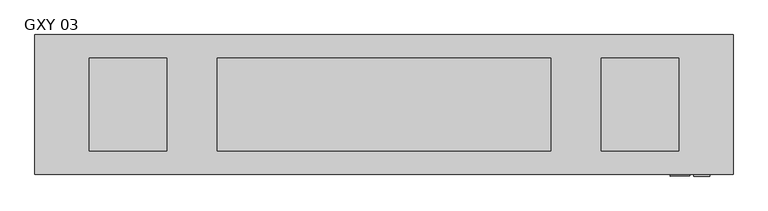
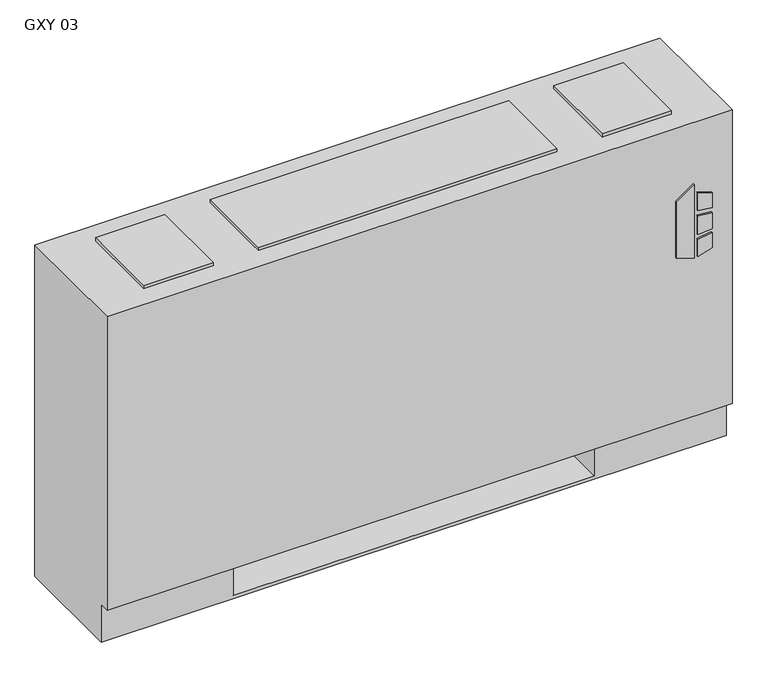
"""IFC4 building model written with IfcOpenShell, lengths in millimetres: proxy geometry, Vertical_Fan_Coil_Unit_-_GXY_-_IEC_-_2-Pipe_TS-FR_RH_2022 : GXY 03."""

import ifcopenshell
import ifcopenshell.guid

model = None  # the IFC model being written
_history = None  # IfcOwnerHistory: only IFC2X3 demands one
_inside = {}  # id of a spatial element -> (the spatial element, [elements in it])
_under = {}  # id of a project, library or spatial element -> (it, [spatial elements below it])
_declared = {}  # id of a project -> (the project, [libraries it declares])
_typed = {}  # id of a type object -> (the type object, [elements of that type])
_made_of = {}  # id of a material, layer set ... -> (it, [elements and type objects made of it])


def new_model(schema):
    """Start an empty IFC model of exactly this schema.

    Asked for "IFC4X3", IfcOpenShell would pick the latest addendum, in which some entities
    have other attributes; the version numbers below select the first issue.
    IFC2X3 requires an IfcOwnerHistory on every rooted entity: one is made here for all.
    """
    global model, _history
    if schema == "IFC4X3":
        model = ifcopenshell.file(schema_version=(4, 3, 0, 0))
    else:
        model = ifcopenshell.file(schema=schema)
    _inside.clear()
    _under.clear()
    _declared.clear()
    _typed.clear()
    _made_of.clear()
    _history = None
    if model.schema == "IFC2X3":
        org = make("IfcOrganization", Name="unknown")
        user = make(
            "IfcPersonAndOrganization",
            ThePerson=make("IfcPerson", FamilyName="unknown"),
            TheOrganization=org,
        )
        app = make(
            "IfcApplication",
            ApplicationDeveloper=org,
            Version="unknown",
            ApplicationFullName="unknown",
            ApplicationIdentifier="unknown",
        )
        _history = make(
            "IfcOwnerHistory",
            OwningUser=user,
            OwningApplication=app,
            ChangeAction="ADDED",
            CreationDate=0,
        )
    return model


def make(cls, **values):
    """One entity of the class cls with the attributes given. An attribute that is None is left unset."""
    return model.create_entity(
        cls, **{name: value for name, value in values.items() if value is not None}
    )


def rooted(cls, **values):
    """An entity with a GlobalId (a new one), such as an element, a storey or a relation."""
    return make(cls, GlobalId=ifcopenshell.guid.new(), OwnerHistory=_history, **values)


def si_unit(unit_type, name, prefix=None):
    """IfcSIUnit, for example si_unit("LENGTHUNIT", "METRE", prefix="MILLI")."""
    return make("IfcSIUnit", UnitType=unit_type, Prefix=prefix, Name=name)


def assignment(units):
    """IfcUnitAssignment: the units of a project."""
    return None if units is None else make("IfcUnitAssignment", Units=units)


def point(xyz):
    """IfcCartesianPoint."""
    return None if xyz is None else make("IfcCartesianPoint", Coordinates=xyz)


def direction(xyz):
    """IfcDirection."""
    return None if xyz is None else make("IfcDirection", DirectionRatios=xyz)


def frame(location, z_axis=None, x_axis=None):
    """IfcAxis2Placement3D, a coordinate frame: its origin and axes. An axis left out is left unset."""
    return make(
        "IfcAxis2Placement3D",
        Location=point(location),
        Axis=direction(z_axis),
        RefDirection=direction(x_axis),
    )


def frame_2d(location, x_axis=None):
    """IfcAxis2Placement2D, a coordinate frame in the plane: its origin and x axis."""
    return make(
        "IfcAxis2Placement2D", Location=point(location), RefDirection=direction(x_axis)
    )


def origin():
    """The frame at (0, 0, 0) with its axes left unset."""
    return frame((0.0, 0.0, 0.0))


def place(relative_to, where):
    """IfcLocalPlacement: puts the frame where relative to a parent placement (None: the world)."""
    return make(
        "IfcLocalPlacement", PlacementRelTo=relative_to, RelativePlacement=where
    )


def context(
    kind, dimensions, precision=None, world=None, true_north=None, identifier=None
):
    """IfcGeometricRepresentationContext, for example the 3D "Model" context."""
    return make(
        "IfcGeometricRepresentationContext",
        ContextIdentifier=identifier,
        ContextType=kind,
        CoordinateSpaceDimension=dimensions,
        Precision=precision,
        WorldCoordinateSystem=world,
        TrueNorth=true_north,
    )


def project(units=None, contexts=None):
    """IfcProject with its units and contexts."""
    return rooted(
        "IfcProject",
        Name="project",
        RepresentationContexts=contexts,
        UnitsInContext=assignment(units),
    )


def spatial(cls, under=None, at=None, **own):
    """A site, building, storey or space (cls), placed at a placement, below another one or the project."""
    s = rooted(cls, ObjectPlacement=at, **own)
    if under is not None:
        _under.setdefault(under.id(), (under, []))[1].append(s)
    return s


def polyline(points):
    """IfcPolyline through the points."""
    return make("IfcPolyline", Points=[point(p) for p in points])


def circle_curve(where, radius):
    """IfcCircle in the frame where."""
    return make("IfcCircle", Position=where, Radius=radius)


def trimmed(basis, trim1, trim2, sense, master):
    """IfcTrimmedCurve: the piece of a basis curve between two trims."""
    return make(
        "IfcTrimmedCurve",
        BasisCurve=basis,
        Trim1=trim1,
        Trim2=trim2,
        SenseAgreement=sense,
        MasterRepresentation=master,
    )


def segment(curve, same_sense, transition):
    """IfcCompositeCurveSegment."""
    return make(
        "IfcCompositeCurveSegment",
        Transition=transition,
        SameSense=same_sense,
        ParentCurve=curve,
    )


def composite_curve(segments, self_intersect=None):
    """IfcCompositeCurve: segments joined end to end."""
    return make("IfcCompositeCurve", Segments=segments, SelfIntersect=self_intersect)


def outline(outer, holes=None, kind="AREA"):
    """IfcArbitraryClosedProfileDef: a profile drawn as a closed curve; with holes, ...WithVoids."""
    if holes is None:
        return make("IfcArbitraryClosedProfileDef", ProfileType=kind, OuterCurve=outer)
    return make(
        "IfcArbitraryProfileDefWithVoids",
        ProfileType=kind,
        OuterCurve=outer,
        InnerCurves=holes,
    )


def extrude(swept, where, along, depth):
    """IfcExtrudedAreaSolid: the profile swept, set in the frame where, extruded along a direction by depth."""
    return make(
        "IfcExtrudedAreaSolid",
        SweptArea=swept,
        Position=where,
        ExtrudedDirection=direction(along),
        Depth=depth,
    )


def shape(context_of_items, identifier, shape_type, items):
    """IfcShapeRepresentation: the items that make up one representation, for example the "Body"."""
    return make(
        "IfcShapeRepresentation",
        ContextOfItems=context_of_items,
        RepresentationIdentifier=identifier,
        RepresentationType=shape_type,
        Items=items,
    )


def source(mapping_origin, context_of_items, identifier, shape_type, items):
    """IfcRepresentationMap: a shape defined once, which mapped items show again and again."""
    return make(
        "IfcRepresentationMap",
        MappingOrigin=mapping_origin,
        MappedRepresentation=shape(context_of_items, identifier, shape_type, items),
    )


def transform(
    local_origin,
    x_axis=None,
    y_axis=None,
    z_axis=None,
    scale=None,
    scale2=None,
    scale3=None,
    uniform=True,
):
    """IfcCartesianTransformationOperator3D, or its non-uniform kind. x_axis, y_axis, z_axis: its Axis1, 2, 3."""
    if uniform:
        return make(
            "IfcCartesianTransformationOperator3D",
            Axis1=direction(x_axis),
            Axis2=direction(y_axis),
            LocalOrigin=point(local_origin),
            Scale=scale,
            Axis3=direction(z_axis),
        )
    return make(
        "IfcCartesianTransformationOperator3DnonUniform",
        Axis1=direction(x_axis),
        Axis2=direction(y_axis),
        LocalOrigin=point(local_origin),
        Scale=scale,
        Axis3=direction(z_axis),
        Scale2=scale2,
        Scale3=scale3,
    )


def mapped(mapping_source, mapping_target):
    """IfcMappedItem: shows the shape of a source again, moved by a transform."""
    return make(
        "IfcMappedItem", MappingSource=mapping_source, MappingTarget=mapping_target
    )


def made_of(thing, what):
    """Note that an element or type object is made of a material, layer set ...; save() writes the relation."""
    if what is not None:
        _made_of.setdefault(what.id(), (what, []))[1].append(thing)
    return thing


def element(
    cls,
    number,
    at=None,
    inside=None,
    cuts=None,
    type_object=None,
    material=None,
    context=None,
    identifier="Body",
    shape_type=None,
    held_by="IfcProductDefinitionShape",
    body=None,
    shapes=None,
    **own,
):
    """One element of the class cls, such as IfcWall. Its Tag is "e" and its number.

    at: its placement. inside: the storey or other place that contains it. cuts: it is an
    opening in that element (IfcRelVoidsElement). A single representation is given by context,
    identifier, shape_type and body (its items); several are given by shapes. held_by: the class
    of the entity that holds the representations. save() writes the other relations.
    """
    e = rooted(cls, Tag="e%d" % number, ObjectPlacement=at, **own)
    if body is not None:
        shapes = [shape(context, identifier, shape_type, body)]
    if shapes is not None:
        e.Representation = make(held_by, Representations=shapes)
    if inside is not None:
        _inside.setdefault(inside.id(), (inside, []))[1].append(e)
    if cuts is not None:
        rooted(
            "IfcRelVoidsElement", RelatingBuildingElement=cuts, RelatedOpeningElement=e
        )
    if type_object is not None:
        _typed.setdefault(type_object.id(), (type_object, []))[1].append(e)
    return made_of(e, material)


def aggregate(whole, parts):
    """IfcRelAggregates: a whole, such as a stair, and the parts it consists of."""
    return rooted("IfcRelAggregates", RelatingObject=whole, RelatedObjects=parts)


def save(model, path):
    """Write the relations noted so far, then the file.

    IfcRelAggregates (storeys below a building ...), IfcRelContainedInSpatialStructure (elements
    in a storey), IfcRelDefinesByType, IfcRelAssociatesMaterial and IfcRelDeclares: one each for
    every whole, place, type object, material and project.
    """
    for whole, parts in _under.values():
        aggregate(whole, parts)
    for where, things in _inside.values():
        rooted(
            "IfcRelContainedInSpatialStructure",
            RelatedElements=things,
            RelatingStructure=where,
        )
    for kind, things in _typed.values():
        rooted("IfcRelDefinesByType", RelatedObjects=things, RelatingType=kind)
    for what, things in _made_of.values():
        rooted("IfcRelAssociatesMaterial", RelatedObjects=things, RelatingMaterial=what)
    for by, libraries in _declared.values():
        rooted("IfcRelDeclares", RelatingContext=by, RelatedDefinitions=libraries)
    model.write(path)


def plane_surface(at):
    """IfcPlane: the flat surface through the origin of the frame at, square to its z axis."""
    return make("IfcPlane", Position=at)


def revolved_surface(curve, axis_point, axis_direction):
    """IfcSurfaceOfRevolution: the curve turned about the line through axis_point along axis_direction."""
    return make(
        "IfcSurfaceOfRevolution",
        SweptCurve=make("IfcArbitraryOpenProfileDef", ProfileType="CURVE", Curve=curve),
        AxisPosition=make("IfcAxis1Placement", Location=point(axis_point), Axis=direction(axis_direction)),
    )


def advanced_brep(points, edges, surfaces, faces):
    """IfcAdvancedBrep: a solid bounded by faces that lie on surfaces and meet in shared edges.

    An edge is (start, end): straight between two places in points (the first is 0);
    or (start, end, curve); or (start, end, curve, False) where it runs against its curve.
    A face is (place in surfaces, loops), or (place, loops, False) where it looks against
    its surface's normal. A loop lists edges by number (the first is 1), with a minus sign
    where the edge is run from its end to its start. The first loop is the outer one.
    """
    corners = [point(p) for p in points]
    vertices = [make("IfcVertexPoint", VertexGeometry=c) for c in corners]
    made = []
    for start, end, *more in edges:
        made.append(
            make(
                "IfcEdgeCurve",
                EdgeStart=vertices[start],
                EdgeEnd=vertices[end],
                EdgeGeometry=more[0] if more else make("IfcPolyline", Points=[corners[start], corners[end]]),
                SameSense=more[1] if len(more) > 1 else True,
            )
        )
    hull = []
    for where, loops, *sense in faces:
        bounds = []
        for j, loop in enumerate(loops):
            ring = [make("IfcOrientedEdge", EdgeElement=made[abs(k) - 1], Orientation=k > 0) for k in loop]
            bounds.append(
                make(
                    "IfcFaceOuterBound" if j == 0 else "IfcFaceBound",
                    Bound=make("IfcEdgeLoop", EdgeList=ring),
                    Orientation=True,
                )
            )
        hull.append(make("IfcAdvancedFace", Bounds=bounds, FaceSurface=surfaces[where], SameSense=sense[0] if sense else True))
    return make("IfcAdvancedBrep", Outer=make("IfcClosedShell", CfsFaces=hull))


def gxy_03_0d3e7284(model_context):
    return source(origin(), model_context, "Body", "SolidModel", [
        extrude(outline(polyline([(391.6086829, 620.7868862), (381.6606126, 652.9602728), (523.831537, 652.9602728), (500.8095309, 620.7868862), (391.6086829, 620.7868862)])), frame((0.0, 12.7, 0.0), z_axis=(0.0, 1.0, 0.0), x_axis=(0.0, 0.0, 1.0)), (0.0, 0.0, 1.0), 3.175),
        extrude(outline(polyline([(470.6079683, 659.7186058), (467.4055757, 685.8), (496.6344168, 685.8), (504.6988318, 659.7186058), (470.6079683, 659.7186058)])), frame((0.0, 12.7, 0.0), z_axis=(0.0, 1.0, 0.0), x_axis=(0.0, 0.0, 1.0)), (0.0, 0.0, 1.0), 3.175),
        extrude(outline(polyline([(418.7444414, 685.8), (415.0789404, 659.7186058), (381.6606126, 659.7186058), (390.2948498, 685.8), (418.7444414, 685.8)])), frame((0.0, 12.7, 0.0), z_axis=(0.0, 1.0, 0.0), x_axis=(0.0, 0.0, 1.0)), (0.0, 0.0, 1.0), 3.175),
        extrude(outline(polyline([(458.0596028, 685.8), (460.3414292, 659.7186058), (424.4038806, 659.7186058), (427.1451456, 685.8), (458.0596028, 685.8)])), frame((0.0, 12.7, 0.0), z_axis=(0.0, 1.0, 0.0), x_axis=(0.0, 0.0, 1.0)), (0.0, 0.0, 1.0), 3.175),
        extrude(outline(polyline([(-298.45, 81.534), (-298.45, 223.266), (-127.0, 223.266), (-127.0, 81.534), (-298.45, 81.534)])), frame((0.0, 0.0, 327.025), z_axis=(0.0, 0.0, 1.0), x_axis=(1.0, 0.0, 0.0)), (0.0, 0.0, 1.0), 260.35),
        extrude(outline(polyline([(-203.2, 206.375), (-203.2, 53.975), (-330.2, 53.975), (-330.2, 206.375), (-203.2, 206.375)])), frame((0.0, 0.0, 641.35), z_axis=(0.0, 0.0, 1.0), x_axis=(1.0, 0.0, 0.0)), (0.0, 0.0, 1.0), 6.35),
        extrude(outline(polyline([(635.0, 206.375), (635.0, 53.975), (508.0, 53.975), (508.0, 206.375), (635.0, 206.375)])), frame((0.0, 0.0, 641.35), z_axis=(0.0, 0.0, 1.0), x_axis=(1.0, 0.0, 0.0)), (0.0, 0.0, 1.0), 6.35),
        extrude(outline(composite_curve([segment(trimmed(circle_curve(frame_2d((78.9432, 398.5514)), 7.9375), [point((78.9432, 406.4889))], [point((78.9432, 390.6139))], False, "CARTESIAN"), True, "CONTINUOUS"), segment(trimmed(circle_curve(frame_2d((78.9432, 398.5514)), 7.9375), [point((78.9432, 390.6139))], [point((78.9432, 406.4889))], False, "CARTESIAN"), True, "CONTINUOUS")], self_intersect=False)), frame((482.6, 0.0, 0.0), z_axis=(1.0, 0.0, 0.0), x_axis=(0.0, 1.0, 0.0)), (0.0, 0.0, 1.0), 50.8),
        extrude(outline(composite_curve([segment(trimmed(circle_curve(frame_2d((155.9052, 537.3878)), 7.9375), [point((155.9052, 545.3253))], [point((155.9052, 529.4503))], False, "CARTESIAN"), True, "CONTINUOUS"), segment(trimmed(circle_curve(frame_2d((155.9052, 537.3878)), 7.9375), [point((155.9052, 529.4503))], [point((155.9052, 545.3253))], False, "CARTESIAN"), True, "CONTINUOUS")], self_intersect=False)), frame((482.6, 0.0, 0.0), z_axis=(1.0, 0.0, 0.0), x_axis=(0.0, 1.0, 0.0)), (0.0, 0.0, 1.0), 50.8),
        advanced_brep(
        [(723.9, 244.475, 641.35), (-419.1, 244.475, 641.35), (-419.1, 15.875, 641.35), (723.9, 15.875, 641.35), (-419.1, 244.475, 0.0), (723.9, 244.475, 0.0), (723.9, 34.925, 0.0), (-419.1, 34.925, 0.0), (482.6, 244.475, 73.025), (711.2, 244.475, 73.025), (711.2, 244.475, 628.65), (482.6, 244.475, 628.65), (482.6, 244.475, 418.0400565), (511.175, 244.475, 418.0400565), (511.175, 244.475, 388.4099435), (482.6, 244.475, 388.4099435), (482.6, 244.475, 290.5125), (511.175, 244.475, 290.5125), (511.175, 244.475, 261.9375), (482.6, 244.475, 261.9375), (482.6, 244.475, 119.0625), (511.175, 244.475, 119.0625), (511.175, 244.475, 90.4875), (482.6, 244.475, 90.4875), (-177.8, 244.475, 628.65), (-406.4, 244.475, 628.65), (-406.4, 244.475, 73.025), (-177.8, 244.475, 73.025), (-177.8, 244.475, 90.4875), (-206.375, 244.475, 90.4875), (-206.375, 244.475, 119.0625), (-177.8, 244.475, 119.0625), (-177.8, 244.475, 261.9375), (-206.375, 244.475, 261.9375), (-206.375, 244.475, 290.5125), (-177.8, 244.475, 290.5125), (-177.8, 244.475, 388.4099435), (-206.375, 244.475, 388.4099435), (-206.375, 244.475, 418.0400565), (-177.8, 244.475, 418.0400565), (500.8626, 244.475, 104.775), (489.7374, 244.475, 104.775), (500.8626, 244.475, 403.225), (489.7374, 244.475, 403.225), (500.8626, 244.475, 276.225), (489.7374, 244.475, 276.225), (-184.9374, 244.475, 104.775), (-196.0626, 244.475, 104.775), (-184.9374, 244.475, 276.225), (-196.0626, 244.475, 276.225), (-184.9374, 244.475, 403.225), (-196.0626, 244.475, 403.225), (-419.1, 34.925, 73.025), (-419.1, 15.875, 73.025), (723.9, 15.875, 73.025), (723.9, 34.925, 73.025), (-177.8, 34.925, 73.025), (-177.8, 219.075, 73.025), (482.6, 219.075, 73.025), (482.6, 34.925, 73.025), (482.6, 34.925, 6.35), (-177.8, 34.925, 6.35), (482.6, 41.275, 628.65), (711.2, 41.275, 628.65), (711.2, 41.275, 73.025), (482.6, 41.275, 73.025), (-177.8, 41.275, 628.65), (-177.8, 41.275, 73.025), (-406.4, 41.275, 73.025), (-406.4, 41.275, 628.65), (482.6, 219.075, 73.025), (482.6, 238.125, 90.4875), (482.6, 238.125, 119.0625), (482.6, 238.125, 261.9375), (482.6, 238.125, 290.5125), (482.6, 238.125, 388.4099435), (482.6, 238.125, 418.0400565), (-177.8, 219.075, 73.025), (-177.8, 238.125, 418.0400565), (-177.8, 238.125, 388.4099435), (-177.8, 238.125, 290.5125), (-177.8, 238.125, 261.9375), (-177.8, 238.125, 119.0625), (-177.8, 238.125, 90.4875), (-177.8, 219.075, 6.35), (482.6, 219.075, 6.35), (511.175, 238.125, 90.4875), (511.175, 238.125, 119.0625), (489.7374, 238.125, 104.775), (500.8626, 238.125, 104.775), (511.175, 238.125, 261.9375), (511.175, 238.125, 290.5125), (489.7374, 238.125, 276.225), (500.8626, 238.125, 276.225), (511.175, 238.125, 388.4099435), (511.175, 238.125, 418.0400565), (489.7374, 238.125, 403.225), (500.8626, 238.125, 403.225), (-206.375, 238.125, 119.0625), (-206.375, 238.125, 90.4875), (-196.0626, 238.125, 104.775), (-184.9374, 238.125, 104.775), (-206.375, 238.125, 290.5125), (-206.375, 238.125, 261.9375), (-196.0626, 238.125, 276.225), (-184.9374, 238.125, 276.225), (-206.375, 238.125, 418.0400565), (-206.375, 238.125, 388.4099435), (-196.0626, 238.125, 403.225), (-184.9374, 238.125, 403.225)],
        [
            (0, 1),
            (1, 2),
            (2, 3),
            (3, 0),
            (4, 5),
            (5, 6),
            (6, 7),
            (7, 4),
            (0, 5),
            (4, 1),
            (8, 9),
            (9, 10),
            (10, 11),
            (11, 12),
            (12, 13),
            (13, 14),
            (14, 15),
            (15, 16),
            (16, 17),
            (17, 18),
            (18, 19),
            (19, 20),
            (20, 21),
            (21, 22),
            (22, 23),
            (23, 8),
            (24, 25),
            (25, 26),
            (26, 27),
            (27, 28),
            (28, 29),
            (29, 30),
            (30, 31),
            (31, 32),
            (32, 33),
            (33, 34),
            (34, 35),
            (35, 36),
            (36, 37),
            (37, 38),
            (38, 39),
            (39, 24),
            (40, 41, circle_curve(frame((495.3, 244.475, 104.775), z_axis=(0.0, -1.0, 0.0), x_axis=(-1.0, 0.0, 0.0)), 5.5626)),
            (41, 40, circle_curve(frame((495.3, 244.475, 104.775), z_axis=(0.0, -1.0, 0.0), x_axis=(-1.0, 0.0, 0.0)), 5.5626)),
            (42, 43, circle_curve(frame((495.3, 244.475, 403.225), z_axis=(0.0, -1.0, 0.0), x_axis=(-1.0, 0.0, 0.0)), 5.5626)),
            (43, 42, circle_curve(frame((495.3, 244.475, 403.225), z_axis=(0.0, -1.0, 0.0), x_axis=(-1.0, 0.0, 0.0)), 5.5626)),
            (44, 45, circle_curve(frame((495.3, 244.475, 276.225), z_axis=(0.0, -1.0, 0.0), x_axis=(-1.0, 0.0, 0.0)), 5.5626)),
            (45, 44, circle_curve(frame((495.3, 244.475, 276.225), z_axis=(0.0, -1.0, 0.0), x_axis=(-1.0, 0.0, 0.0)), 5.5626)),
            (46, 47, circle_curve(frame((-190.5, 244.475, 104.775), z_axis=(0.0, -1.0, 0.0), x_axis=(-1.0, 0.0, 0.0)), 5.5626)),
            (47, 46, circle_curve(frame((-190.5, 244.475, 104.775), z_axis=(0.0, -1.0, 0.0), x_axis=(-1.0, 0.0, 0.0)), 5.5626)),
            (48, 49, circle_curve(frame((-190.5, 244.475, 276.225), z_axis=(0.0, -1.0, 0.0), x_axis=(-1.0, 0.0, 0.0)), 5.5626)),
            (49, 48, circle_curve(frame((-190.5, 244.475, 276.225), z_axis=(0.0, -1.0, 0.0), x_axis=(-1.0, 0.0, 0.0)), 5.5626)),
            (50, 51, circle_curve(frame((-190.5, 244.475, 403.225), z_axis=(0.0, -1.0, 0.0), x_axis=(-1.0, 0.0, 0.0)), 5.5626)),
            (51, 50, circle_curve(frame((-190.5, 244.475, 403.225), z_axis=(0.0, -1.0, 0.0), x_axis=(-1.0, 0.0, 0.0)), 5.5626)),
            (7, 52),
            (52, 53),
            (53, 2),
            (53, 54),
            (54, 3),
            (54, 55),
            (55, 6),
            (52, 56),
            (56, 57),
            (57, 58),
            (58, 59),
            (59, 55),
            (59, 60),
            (60, 61),
            (61, 56),
            (62, 63),
            (63, 64),
            (64, 65),
            (65, 62),
            (66, 67),
            (67, 68),
            (68, 69),
            (69, 66),
            (65, 70),
            (70, 8),
            (23, 71),
            (71, 72),
            (72, 20),
            (19, 73),
            (73, 74),
            (74, 16),
            (15, 75),
            (75, 76),
            (76, 12),
            (11, 62),
            (64, 9),
            (63, 10),
            (69, 25),
            (24, 66),
            (68, 26),
            (67, 77),
            (77, 27),
            (39, 78),
            (78, 79),
            (79, 36),
            (35, 80),
            (80, 81),
            (81, 32),
            (31, 82),
            (82, 83),
            (83, 28),
            (57, 84),
            (84, 85),
            (85, 58),
            (85, 60),
            (84, 61),
            (71, 86),
            (86, 87),
            (87, 72),
            (88, 89, circle_curve(frame((495.3, 238.125, 104.775), z_axis=(0.0, 1.0, 0.0), x_axis=(-1.0, 0.0, 0.0)), 5.5626)),
            (89, 88, circle_curve(frame((495.3, 238.125, 104.775), z_axis=(0.0, 1.0, 0.0), x_axis=(-1.0, 0.0, 0.0)), 5.5626)),
            (73, 90),
            (90, 91),
            (91, 74),
            (92, 93, circle_curve(frame((495.3, 238.125, 276.225), z_axis=(0.0, 1.0, 0.0), x_axis=(-1.0, 0.0, 0.0)), 5.5626)),
            (93, 92, circle_curve(frame((495.3, 238.125, 276.225), z_axis=(0.0, 1.0, 0.0), x_axis=(-1.0, 0.0, 0.0)), 5.5626)),
            (75, 94),
            (94, 95),
            (95, 76),
            (96, 97, circle_curve(frame((495.3, 238.125, 403.225), z_axis=(0.0, 1.0, 0.0), x_axis=(-1.0, 0.0, 0.0)), 5.5626)),
            (97, 96, circle_curve(frame((495.3, 238.125, 403.225), z_axis=(0.0, 1.0, 0.0), x_axis=(-1.0, 0.0, 0.0)), 5.5626)),
            (98, 99),
            (99, 83),
            (82, 98),
            (100, 101, circle_curve(frame((-190.5, 238.125, 104.775), z_axis=(0.0, 1.0, 0.0), x_axis=(-1.0, 0.0, 0.0)), 5.5626)),
            (101, 100, circle_curve(frame((-190.5, 238.125, 104.775), z_axis=(0.0, 1.0, 0.0), x_axis=(-1.0, 0.0, 0.0)), 5.5626)),
            (102, 103),
            (103, 81),
            (80, 102),
            (104, 105, circle_curve(frame((-190.5, 238.125, 276.225), z_axis=(0.0, 1.0, 0.0), x_axis=(-1.0, 0.0, 0.0)), 5.5626)),
            (105, 104, circle_curve(frame((-190.5, 238.125, 276.225), z_axis=(0.0, 1.0, 0.0), x_axis=(-1.0, 0.0, 0.0)), 5.5626)),
            (106, 107),
            (107, 79),
            (78, 106),
            (108, 109, circle_curve(frame((-190.5, 238.125, 403.225), z_axis=(0.0, 1.0, 0.0), x_axis=(-1.0, 0.0, 0.0)), 5.5626)),
            (109, 108, circle_curve(frame((-190.5, 238.125, 403.225), z_axis=(0.0, 1.0, 0.0), x_axis=(-1.0, 0.0, 0.0)), 5.5626)),
            (87, 21),
            (86, 22),
            (91, 17),
            (90, 18),
            (95, 13),
            (94, 14),
            (30, 98),
            (99, 29),
            (34, 102),
            (103, 33),
            (38, 106),
            (107, 37),
            (88, 41),
            (40, 89),
            (96, 43),
            (42, 97),
            (92, 45),
            (44, 93),
            (100, 47),
            (46, 101),
            (104, 49),
            (48, 105),
            (108, 51),
            (50, 109),
        ],
        [
            plane_surface(frame((-419.1, 244.475, 641.35), z_axis=(0.0, 0.0, 1.0), x_axis=(-1.0, 0.0, 0.0))),
            plane_surface(frame((-419.1, 244.475, 0.0), z_axis=(0.0, 0.0, -1.0), x_axis=(1.0, 0.0, 0.0))),
            plane_surface(frame((723.9, 244.475, 641.35), z_axis=(0.0, 1.0, 0.0), x_axis=(0.0, 0.0, -1.0))),
            plane_surface(frame((-419.1, 244.475, 641.35), z_axis=(-1.0, 0.0, 0.0), x_axis=(0.0, 0.0, -1.0))),
            plane_surface(frame((-419.1, 15.875, 641.35), z_axis=(0.0, -1.0, 0.0), x_axis=(0.0, 0.0, -1.0))),
            plane_surface(frame((723.9, 15.875, 641.35), z_axis=(1.0, 0.0, 0.0), x_axis=(0.0, 0.0, -1.0))),
            plane_surface(frame((-419.1, 15.875, 73.025), z_axis=(0.0, 0.0, -1.0), x_axis=(1.0, 0.0, 0.0))),
            plane_surface(frame((-419.1, 34.925, 73.025), z_axis=(0.0, -1.0, 0.0), x_axis=(1.0, 0.0, 0.0))),
            plane_surface(frame((482.6, 41.275, 628.65), z_axis=(0.0, 1.0, 0.0), x_axis=(0.0, 0.0, -1.0))),
            plane_surface(frame((482.6, 41.275, 628.65), z_axis=(1.0, 0.0, 0.0), x_axis=(0.0, 1.0, 0.0))),
            plane_surface(frame((482.6, 41.275, 73.025), z_axis=(0.0, 0.0, 1.0), x_axis=(0.0, 1.0, 0.0))),
            plane_surface(frame((711.2, 41.275, 73.025), z_axis=(-1.0, 0.0, 0.0), x_axis=(0.0, 1.0, 0.0))),
            plane_surface(frame((711.2, 41.275, 628.65), z_axis=(0.0, 0.0, -1.0), x_axis=(0.0, 1.0, 0.0))),
            plane_surface(frame((-177.8, 41.275, 628.65), z_axis=(0.0, 0.0, -1.0), x_axis=(0.0, 1.0, 0.0))),
            plane_surface(frame((-406.4, 41.275, 628.65), z_axis=(1.0, 0.0, 0.0), x_axis=(0.0, 1.0, 0.0))),
            plane_surface(frame((-406.4, 41.275, 73.025), z_axis=(0.0, 0.0, 1.0), x_axis=(0.0, 1.0, 0.0))),
            plane_surface(frame((-177.8, 41.275, 73.025), z_axis=(-1.0, 0.0, 0.0), x_axis=(0.0, 1.0, 0.0))),
            plane_surface(frame((482.6, 219.075, 73.025), z_axis=(0.0, -1.0, 0.0), x_axis=(0.0, 0.0, -1.0))),
            plane_surface(frame((482.6, 219.075, 73.025), z_axis=(-1.0, 0.0, 0.0), x_axis=(0.0, -1.0, 0.0))),
            plane_surface(frame((482.6, 219.075, 6.35), z_axis=(0.0, 0.0, 1.0), x_axis=(0.0, -1.0, 0.0))),
            plane_surface(frame((-177.8, 219.075, 6.35), z_axis=(1.0, 0.0, 0.0), x_axis=(0.0, -1.0, 0.0))),
            plane_surface(frame((511.175, 238.125, 119.0625), z_axis=(0.0, -1.0, 0.0), x_axis=(-1.0, 0.0, 0.0))),
            plane_surface(frame((482.6, 244.475, 119.0625), z_axis=(0.0, 0.0, 1.0), x_axis=(0.0, -1.0, 0.0))),
            plane_surface(frame((511.175, 244.475, 119.0625), z_axis=(1.0, 0.0, 0.0), x_axis=(0.0, -1.0, 0.0))),
            plane_surface(frame((511.175, 244.475, 90.4875), z_axis=(0.0, 0.0, -1.0), x_axis=(0.0, -1.0, 0.0))),
            plane_surface(frame((482.6, 244.475, 290.5125), z_axis=(0.0, 0.0, 1.0), x_axis=(0.0, -1.0, 0.0))),
            plane_surface(frame((511.175, 244.475, 290.5125), z_axis=(1.0, 0.0, 0.0), x_axis=(0.0, -1.0, 0.0))),
            plane_surface(frame((511.175, 244.475, 261.9375), z_axis=(0.0, 0.0, -1.0), x_axis=(0.0, -1.0, 0.0))),
            plane_surface(frame((482.6, 244.475, 418.0400565), z_axis=(0.0, 0.0, 1.0), x_axis=(0.0, -1.0, 0.0))),
            plane_surface(frame((511.175, 244.475, 418.0400565), z_axis=(1.0, 0.0, 0.0), x_axis=(0.0, -1.0, 0.0))),
            plane_surface(frame((511.175, 244.475, 388.4099435), z_axis=(0.0, 0.0, -1.0), x_axis=(0.0, -1.0, 0.0))),
            plane_surface(frame((-206.375, 244.475, 119.0625), z_axis=(0.0, 0.0, 1.0), x_axis=(0.0, -1.0, 0.0))),
            plane_surface(frame((-177.8, 244.475, 90.4875), z_axis=(0.0, 0.0, -1.0), x_axis=(0.0, -1.0, 0.0))),
            plane_surface(frame((-206.375, 244.475, 90.4875), z_axis=(-1.0, 0.0, 0.0), x_axis=(0.0, -1.0, 0.0))),
            plane_surface(frame((-206.375, 244.475, 290.5125), z_axis=(0.0, 0.0, 1.0), x_axis=(0.0, -1.0, 0.0))),
            plane_surface(frame((-177.8, 244.475, 261.9375), z_axis=(0.0, 0.0, -1.0), x_axis=(0.0, -1.0, 0.0))),
            plane_surface(frame((-206.375, 244.475, 261.9375), z_axis=(-1.0, 0.0, 0.0), x_axis=(0.0, -1.0, 0.0))),
            plane_surface(frame((-206.375, 244.475, 418.0400565), z_axis=(0.0, 0.0, 1.0), x_axis=(0.0, -1.0, 0.0))),
            plane_surface(frame((-177.8, 244.475, 388.4099435), z_axis=(0.0, 0.0, -1.0), x_axis=(0.0, -1.0, 0.0))),
            plane_surface(frame((-206.375, 244.475, 388.4099435), z_axis=(-1.0, 0.0, 0.0), x_axis=(0.0, -1.0, 0.0))),
            revolved_surface(polyline([(489.73740000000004, 238.125, 104.775), (489.73740000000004, 244.475, 104.775)]), (495.3, 244.475, 104.775), (0.0, -1.0, 0.0)),
            revolved_surface(polyline([(489.73740000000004, 238.125, 403.225), (489.73740000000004, 244.475, 403.225)]), (495.3, 244.475, 403.225), (0.0, -1.0, 0.0)),
            revolved_surface(polyline([(489.73740000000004, 238.125, 276.225), (489.73740000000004, 244.475, 276.225)]), (495.3, 244.475, 276.225), (0.0, -1.0, 0.0)),
            revolved_surface(polyline([(-196.0626, 238.125, 104.775), (-196.0626, 244.475, 104.775)]), (-190.5, 244.475, 104.775), (0.0, -1.0, 0.0)),
            revolved_surface(polyline([(-196.0626, 238.125, 276.225), (-196.0626, 244.475, 276.225)]), (-190.5, 244.475, 276.225), (0.0, -1.0, 0.0)),
            revolved_surface(polyline([(-196.0626, 238.125, 403.225), (-196.0626, 244.475, 403.225)]), (-190.5, 244.475, 403.225), (0.0, -1.0, 0.0)),
        ],
        [
            (0, [[1, 2, 3, 4]]),
            (1, [[5, 6, 7, 8]]),
            (2, [[-1, 9, -5, 10], [11, 12, 13, 14, 15, 16, 17, 18, 19, 20, 21, 22, 23, 24, 25, 26], [27, 28, 29, 30, 31, 32, 33, 34, 35, 36, 37, 38, 39, 40, 41, 42], [43, 44], [45, 46], [47, 48], [49, 50], [51, 52], [53, 54]]),
            (3, [[-2, -10, -8, 55, 56, 57]]),
            (4, [[-3, -57, 58, 59]]),
            (5, [[-4, -59, 60, 61, -6, -9]]),
            (6, [[-56, 62, 63, 64, 65, 66, -60, -58]]),
            (7, [[-7, -61, -66, 67, 68, 69, -62, -55]]),
            (8, [[70, 71, 72, 73]]),
            (8, [[74, 75, 76, 77]]),
            (9, [[-73, 78, 79, -26, 80, 81, 82, -22, 83, 84, 85, -18, 86, 87, 88, -14, 89]]),
            (10, [[-72, 90, -11, -79, -78]]),
            (11, [[-71, 91, -12, -90]]),
            (12, [[-70, -89, -13, -91]]),
            (13, [[-77, 92, -27, 93]]),
            (14, [[-76, 94, -28, -92]]),
            (15, [[-75, 95, 96, -29, -94]]),
            (16, [[-74, -93, -42, 97, 98, 99, -38, 100, 101, 102, -34, 103, 104, 105, -30, -96, -95]]),
            (17, [[-64, 106, 107, 108]]),
            (18, [[-108, 109, -67, -65]]),
            (19, [[-107, 110, -68, -109]]),
            (20, [[-106, -63, -69, -110]]),
            (21, [[111, 112, 113, -81], [114, 115]]),
            (21, [[116, 117, 118, -84], [119, 120]]),
            (21, [[121, 122, 123, -87], [124, 125]]),
            (21, [[126, 127, -104, 128], [129, 130]]),
            (21, [[131, 132, -101, 133], [134, 135]]),
            (21, [[136, 137, -98, 138], [139, 140]]),
            (22, [[-113, 141, -23, -82]]),
            (23, [[-112, 142, -24, -141]]),
            (24, [[-111, -80, -25, -142]]),
            (25, [[-118, 143, -19, -85]]),
            (26, [[-117, 144, -20, -143]]),
            (27, [[-116, -83, -21, -144]]),
            (28, [[-123, 145, -15, -88]]),
            (29, [[-122, 146, -16, -145]]),
            (30, [[-121, -86, -17, -146]]),
            (31, [[-128, -103, -33, 147]]),
            (32, [[-127, 148, -31, -105]]),
            (33, [[-126, -147, -32, -148]]),
            (34, [[-133, -100, -37, 149]]),
            (35, [[-132, 150, -35, -102]]),
            (36, [[-131, -149, -36, -150]]),
            (37, [[-138, -97, -41, 151]]),
            (38, [[-137, 152, -39, -99]]),
            (39, [[-136, -151, -40, -152]]),
            (40, [[153, -43, 154, -114]]),
            (40, [[-153, -115, -154, -44]]),
            (41, [[155, -45, 156, -124]]),
            (41, [[-155, -125, -156, -46]]),
            (42, [[157, -47, 158, -119]]),
            (42, [[-157, -120, -158, -48]]),
            (43, [[159, -49, 160, -129]]),
            (43, [[-159, -130, -160, -50]]),
            (44, [[161, -51, 162, -134]]),
            (44, [[-161, -135, -162, -52]]),
            (45, [[163, -53, 164, -139]]),
            (45, [[-163, -140, -164, -54]]),
        ],
    ),
        extrude(outline(polyline([(425.45, 206.375), (425.45, 53.975), (-120.65, 53.975), (-120.65, 206.375), (425.45, 206.375)])), frame((0.0, 0.0, 641.35), z_axis=(0.0, 0.0, 1.0), x_axis=(1.0, 0.0, 0.0)), (0.0, 0.0, 1.0), 6.35),
    ])


if __name__ == "__main__":
    model = new_model("IFC4")
    model_context = context("Model", 3, world=origin())
    ifc_project = project(units=[si_unit("LENGTHUNIT", "METRE", prefix="MILLI")], contexts=[model_context])
    site = spatial("IfcSite", under=ifc_project)
    building = spatial("IfcBuilding", under=site)
    placement = place(None, origin())
    gxy_03_shape = gxy_03_0d3e7284(model_context)
    element("IfcBuildingElementProxy", 1, Name="Vertical_Fan_Coil_Unit_-_GXY_-_IEC_-_2-Pipe_TS-FR_RH_2022 : GXY 03", ObjectType="Vertical_Fan_Coil_Unit_-_GXY_-_IEC_-_2-Pipe_TS-FR_RH_2022 : GXY 03", at=placement, inside=building, context=model_context, shape_type="MappedRepresentation", body=[
        mapped(gxy_03_shape, transform((0.0, 0.0, 0.0), x_axis=(1.0, 0.0, 0.0), y_axis=(0.0, 1.0, 0.0), z_axis=(0.0, 0.0, 1.0))),
    ])
    save(model, "model.ifc")
